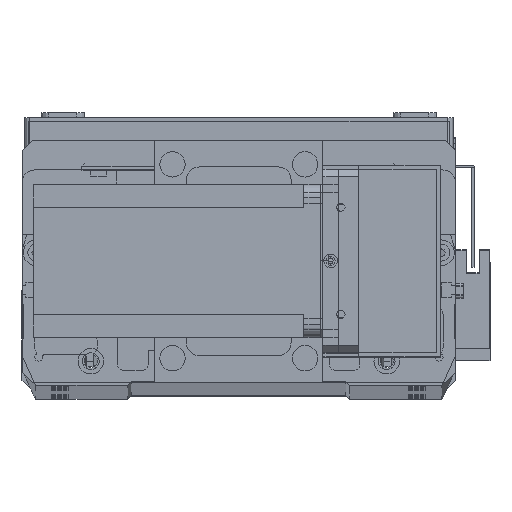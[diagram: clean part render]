
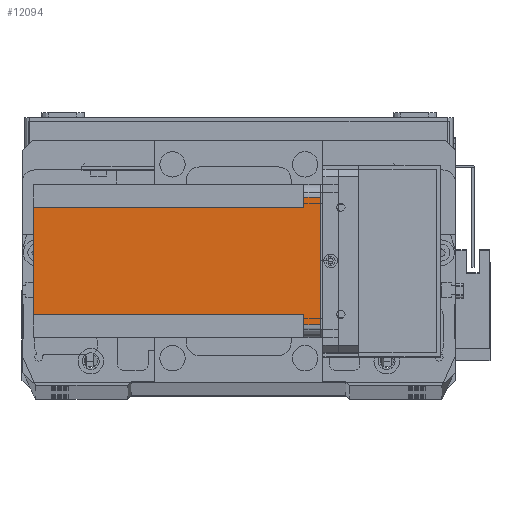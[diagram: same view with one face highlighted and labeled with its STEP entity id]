
A CAD part, top view. The second image highlights one B-rep face of the part: STEP entity #12094.
In plain terms, the highlighted planar face has unit normal (0, 0, 1) as drawn and (-1, 0, 0) by its records, which use the part's own axes.
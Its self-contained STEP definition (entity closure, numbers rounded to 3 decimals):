
#134 = LINE ( 'NONE', #3209, #32794 ) ;
#268 = ORIENTED_EDGE ( 'NONE', *, *, #2467, .T. ) ;
#2058 = ORIENTED_EDGE ( 'NONE', *, *, #3296, .F. ) ;
#2367 = LINE ( 'NONE', #6435, #9834 ) ;
#2467 = EDGE_CURVE ( 'NONE', #28061, #18431, #7695, .T. ) ;
#2898 = LINE ( 'NONE', #28244, #17192 ) ;
#2912 = CARTESIAN_POINT ( 'NONE',  ( 0., 5., -6.5 ) ) ;
#3209 = CARTESIAN_POINT ( 'NONE',  ( 0., 51., -112.5 ) ) ;
#3296 = EDGE_CURVE ( 'NONE', #32067, #29114, #2367, .T. ) ;
#4654 = EDGE_CURVE ( 'NONE', #17853, #18431, #2898, .T. ) ;
#5355 = LINE ( 'NONE', #27734, #25597 ) ;
#5810 = AXIS2_PLACEMENT_3D ( 'NONE', #7427, #7339, #7303 ) ;
#5845 = EDGE_CURVE ( 'NONE', #32067, #27678, #22317, .T. ) ;
#6178 = DIRECTION ( 'NONE',  ( 0., 1., 0. ) ) ;
#6372 = CARTESIAN_POINT ( 'NONE',  ( 0., 51., -112.5 ) ) ;
#6435 = CARTESIAN_POINT ( 'NONE',  ( 0., 0., -6.5 ) ) ;
#7303 = DIRECTION ( 'NONE',  ( 0., -1., 0. ) ) ;
#7339 = DIRECTION ( 'NONE',  ( -1., 0., 0. ) ) ;
#7340 = VECTOR ( 'NONE', #10007, 1000. ) ;
#7427 = CARTESIAN_POINT ( 'NONE',  ( 0., 0., -112.5 ) ) ;
#7687 = PLANE ( 'NONE',  #5810 ) ;
#7695 = LINE ( 'NONE', #28180, #26876 ) ;
#8067 = LINE ( 'NONE', #16619, #21045 ) ;
#8204 = LINE ( 'NONE', #15274, #7340 ) ;
#8763 = DIRECTION ( 'NONE',  ( 0., 0., 1. ) ) ;
#9422 = VECTOR ( 'NONE', #14679, 1000. ) ;
#9834 = VECTOR ( 'NONE', #6178, 1000. ) ;
#9958 = ORIENTED_EDGE ( 'NONE', *, *, #4654, .F. ) ;
#10007 = DIRECTION ( 'NONE',  ( 0., -1., 0. ) ) ;
#10941 = CARTESIAN_POINT ( 'NONE',  ( 0., 5., 0. ) ) ;
#11732 = EDGE_LOOP ( 'NONE', ( #2058, #22164, #23495, #268, #9958, #16732, #19500, #23398 ) ) ;
#12094 = ADVANCED_FACE ( 'NONE', ( #23144 ), #7687, .T. ) ;
#12287 = CARTESIAN_POINT ( 'NONE',  ( 0., 9., -112.5 ) ) ;
#12643 = EDGE_CURVE ( 'NONE', #29114, #22984, #5355, .T. ) ;
#13531 = CARTESIAN_POINT ( 'NONE',  ( 0., 51., -6.5 ) ) ;
#14613 = CARTESIAN_POINT ( 'NONE',  ( 0., 5., -112.5 ) ) ;
#14679 = DIRECTION ( 'NONE',  ( 0., 0., 1. ) ) ;
#15274 = CARTESIAN_POINT ( 'NONE',  ( 0., 0., 0. ) ) ;
#16525 = DIRECTION ( 'NONE',  ( 0., -1., 0. ) ) ;
#16619 = CARTESIAN_POINT ( 'NONE',  ( 0., 0., -112.5 ) ) ;
#16732 = ORIENTED_EDGE ( 'NONE', *, *, #25274, .F. ) ;
#17192 = VECTOR ( 'NONE', #27055, 1000. ) ;
#17853 = VERTEX_POINT ( 'NONE', #13531 ) ;
#18154 = VERTEX_POINT ( 'NONE', #6372 ) ;
#18431 = VERTEX_POINT ( 'NONE', #33346 ) ;
#19095 = EDGE_CURVE ( 'NONE', #18154, #22984, #8067, .T. ) ;
#19500 = ORIENTED_EDGE ( 'NONE', *, *, #19095, .T. ) ;
#21045 = VECTOR ( 'NONE', #16525, 1000. ) ;
#22164 = ORIENTED_EDGE ( 'NONE', *, *, #5845, .T. ) ;
#22317 = LINE ( 'NONE', #14613, #9422 ) ;
#22984 = VERTEX_POINT ( 'NONE', #12287 ) ;
#22988 = CARTESIAN_POINT ( 'NONE',  ( 0., 55., 0. ) ) ;
#23144 = FACE_OUTER_BOUND ( 'NONE', #11732, .T. ) ;
#23398 = ORIENTED_EDGE ( 'NONE', *, *, #12643, .F. ) ;
#23495 = ORIENTED_EDGE ( 'NONE', *, *, #23982, .F. ) ;
#23982 = EDGE_CURVE ( 'NONE', #28061, #27678, #8204, .T. ) ;
#25274 = EDGE_CURVE ( 'NONE', #18154, #17853, #134, .T. ) ;
#25597 = VECTOR ( 'NONE', #27270, 1000. ) ;
#26876 = VECTOR ( 'NONE', #28390, 1000. ) ;
#27055 = DIRECTION ( 'NONE',  ( 0., 1., 0. ) ) ;
#27270 = DIRECTION ( 'NONE',  ( 0., 0., -1. ) ) ;
#27678 = VERTEX_POINT ( 'NONE', #10941 ) ;
#27734 = CARTESIAN_POINT ( 'NONE',  ( 0., 9., -112.5 ) ) ;
#28061 = VERTEX_POINT ( 'NONE', #22988 ) ;
#28180 = CARTESIAN_POINT ( 'NONE',  ( 0., 55., -112.5 ) ) ;
#28244 = CARTESIAN_POINT ( 'NONE',  ( 0., 60., -6.5 ) ) ;
#28390 = DIRECTION ( 'NONE',  ( 0., 0., -1. ) ) ;
#29114 = VERTEX_POINT ( 'NONE', #33176 ) ;
#32067 = VERTEX_POINT ( 'NONE', #2912 ) ;
#32794 = VECTOR ( 'NONE', #8763, 1000. ) ;
#33176 = CARTESIAN_POINT ( 'NONE',  ( 0., 9., -6.5 ) ) ;
#33346 = CARTESIAN_POINT ( 'NONE',  ( 0., 55., -6.5 ) ) ;
